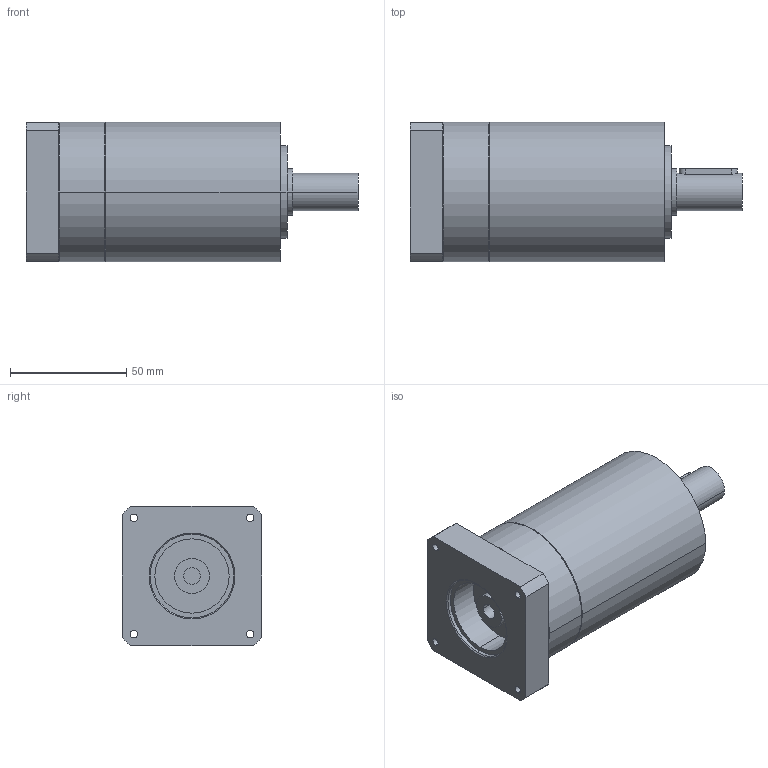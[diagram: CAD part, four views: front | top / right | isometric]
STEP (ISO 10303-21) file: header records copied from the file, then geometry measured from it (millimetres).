
FILE_DESCRIPTION(('CoCreate Modeling STEP Export'),'2;1');
FILE_NAME('GPR75_ig-9-12-16-20-24-30-36_16_B14_7_P35.stp','2014-08-25T16:05:43',(''),(''),'CoCreate Modeling STEP processor for AP214 (Solid Model)','CoCreate Modeling 16.00C 25-Feb-2009 (C) Parametric Technology GmbH','');
FILE_SCHEMA(('AUTOMOTIVE_DESIGN { 1 0 10303 214 1 1 1 1 }'));
Length unit declared in the file: millimetre
Products named in the file (2): GPR75_ig-9-12-16-20-24-30-36_16_B14_7_P35
Assembly tree (1 placements, depth 2):
  GPR75_ig-9-12-16-20-24-30-36_16_B14_7_P35
    GPR75_ig-9-12-16-20-24-30-36_16_B14_7_P35
Bounding box: 142.9 x 60 x 60 mm (x, y, z)
Volume: 317470 mm3; surface area: 34056 mm2
Topology: 1 solids, 1 shells, 72 faces, 188 edges, 130 vertices
Faces by surface type: cylinder 42, plane 22, cone 8
Entity records: 1959 total; most frequent: ORIENTED_EDGE 372, CARTESIAN_POINT 362, DIRECTION 268, EDGE_CURVE 186, VERTEX_POINT 130, AXIS2_PLACEMENT_3D 100, EDGE_LOOP 94, FACE_OUTER_BOUND 72
